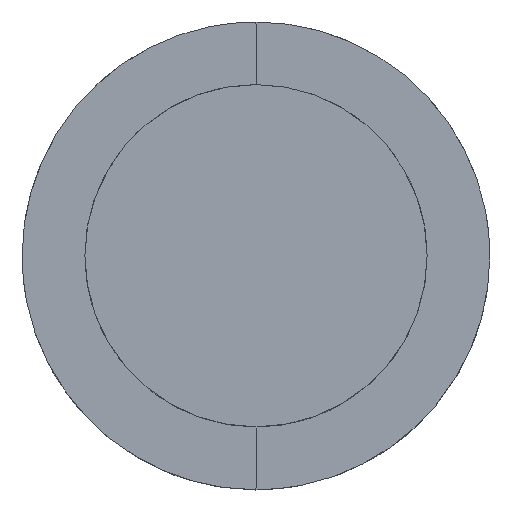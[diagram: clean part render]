
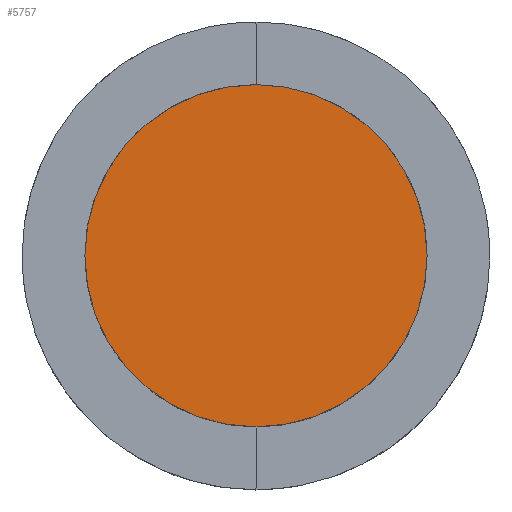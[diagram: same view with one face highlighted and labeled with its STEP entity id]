
A CAD part, top view. The second image highlights one B-rep face of the part: STEP entity #5757.
In plain terms, the highlighted planar face has unit normal (0, 0, 1).
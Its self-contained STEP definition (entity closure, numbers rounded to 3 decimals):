
#5656=CARTESIAN_POINT('',(-75.,0.,15.0));
#5657=VERTEX_POINT('',#5656);
#5658=CARTESIAN_POINT('',(75.,0.,15.0));
#5659=VERTEX_POINT('',#5658);
#5660=CARTESIAN_POINT('',(0.,0.,15.0));
#5661=DIRECTION('',(-0.0,-0.0,-1.0));
#5662=DIRECTION('',(1.0,0.0,0.0));
#5663=AXIS2_PLACEMENT_3D('',#5660,#5661,#5662);
#5664=CIRCLE('',#5663,75.);
#5665=EDGE_CURVE('',#5657,#5659,#5664,.T.);
#5712=CARTESIAN_POINT('',(0.,0.,15.0));
#5713=DIRECTION('',(-0.0,-0.0,-1.0));
#5714=DIRECTION('',(1.0,0.0,0.0));
#5715=AXIS2_PLACEMENT_3D('',#5712,#5713,#5714);
#5716=CIRCLE('',#5715,75.);
#5717=EDGE_CURVE('',#5659,#5657,#5716,.T.);
#5748=ORIENTED_EDGE('',*,*,#5665,.F.);
#5749=ORIENTED_EDGE('',*,*,#5717,.F.);
#5750=EDGE_LOOP('',(#5748,#5749));
#5751=FACE_OUTER_BOUND('',#5750,.T.);
#5752=CARTESIAN_POINT('',(-75.,-75.,15.0));
#5753=DIRECTION('',(0.0,0.0,1.0));
#5754=DIRECTION('',(1.0,0.0,0.0));
#5755=AXIS2_PLACEMENT_3D('',#5752,#5753,#5754);
#5756=PLANE('',#5755);
#5757=ADVANCED_FACE('',(#5751),#5756,.T.);
